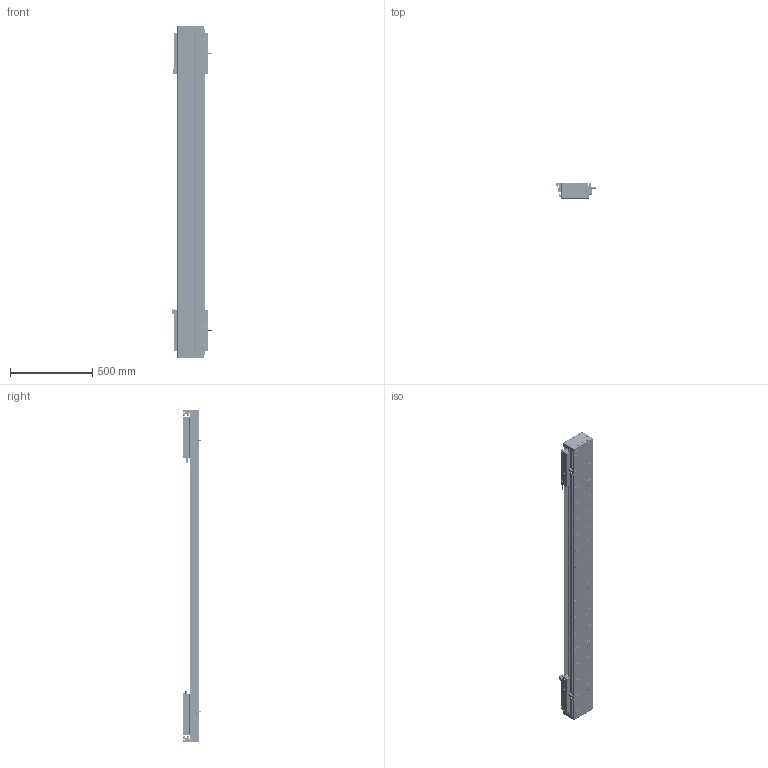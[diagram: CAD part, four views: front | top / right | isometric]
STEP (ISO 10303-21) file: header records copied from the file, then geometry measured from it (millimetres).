
FILE_DESCRIPTION (( 'STEP AP203' ), '1' );
FILE_NAME ('DA-C165-2-C3-T1400-C010-0.2 直线电机.STEP', '2023-06-13T09:24:21', ( '微软用户' ), ( '微软中国' ), 'SwSTEP 2.0', 'SolidWorks 2019', '' );
FILE_SCHEMA (( 'CONFIG_CONTROL_DESIGN' ));
Length unit declared in the file: millimetre
Products named in the file (22): 葩璃 PM-Y45^DA-C165-C3-T-C010-0.2-N 眻盄萇儂; 复件 DA165-GDLK-00 钢带拉块^复件 CU165钢带组件_DA-C165-C3-T-C010-0.2-N 直线电机; 复件 DA165-GD-DG-H-00 端盖^复件 CU165钢带组件_DA-C165-C3-T-C010-0.2-N 直线电机; 复件 DA165-GD-1860-002-00 钢带盖板^复件 CU165钢带组件_DA-C165-C3-T-C010-0.2-N 直线电机; 葩璃 CKM03-W075-C1C2-TP-3.0^DA-C165-C3-T-C010-0.2-N 眻盄萇儂; 复件 CU165 底座^IU-CU165-L 底座导轨_L1980; 复件 66338-1000-006-00 光电感应块^DA-C165-C3-T-C010-0.2-N 直线电机; 复件 DA95-HXJ-00 缓冲橡胶^DA-C165-C3-T-C010-0.2-N 直线电机; 复件 DA165-GYP-00 光电感应片^DA-C165-C3-T-C010-0.2-N 直线电机; 复件 DA165-GDYK-00 钢带压块^复件 CU165钢带组件_DA-C165-C3-T-C010-0.2-N 直线电机; 复件 六角薄螺母 M3^DA-C165-C3-T-C010-0.2-N 直线电机_GB_FASTENER_NUT_STNAB M3-C; DA-C165-2-C3-T1400-C010-0.2 眻盄萇儂; 葩璃 PM-T45^DA-C165-C3-T-C010-0.2-N 眻盄萇儂; 复件 CU165钢带组件^DA-C165-C3-T-C010-0.2-N 直线电机; 珨极趙賑雄怢啣C3-wf; 复件 DMA-010-0.2 读数头^DA-C165-C3-T-C010-0.2-N 直线电机; 复件 DA126-GYP-ZJ-00 中间光电感应片^DA-C165-C3-T-C010-0.2-N 直线电机; 复件 XD-U-02L 磁栅尺^DA-C165-C3-T-C010-0.2-N 直线电机_T; 葩璃 DA95-GT-T-00^IU-CU165-L 菁釱絳寢_T; 葩璃 CKM01-W075-TRL^DA-C165-C3-T-C010-0.2-N 眻盄萇儂; IU-CU165-L 菁釱絳寢; 复件 DKW-HXJ-JY-00 缓冲橡胶^DA-C165-C3-T-C010-0.2-N 直线电机
Assembly tree (45 placements, depth 3):
  DA-C165-2-C3-T1400-C010-0.2 眻盄萇儂
    IU-CU165-L 菁釱絳寢
      复件 CU165 底座^IU-CU165-L 底座导轨_L1980
      葩璃 DA95-GT-T-00^IU-CU165-L 菁釱絳寢_T  x4
    复件 XD-U-02L 磁栅尺^DA-C165-C3-T-C010-0.2-N 直线电机_T
    葩璃 PM-T45^DA-C165-C3-T-C010-0.2-N 眻盄萇儂  x4
    葩璃 CKM01-W075-TRL^DA-C165-C3-T-C010-0.2-N 眻盄萇儂
    复件 CU165钢带组件^DA-C165-C3-T-C010-0.2-N 直线电机
      复件 DA165-GD-DG-H-00 端盖^复件 CU165钢带组件_DA-C165-C3-T-C010-0.2-N 直线电机  x2
      复件 DA165-GDYK-00 钢带压块^复件 CU165钢带组件_DA-C165-C3-T-C010-0.2-N 直线电机  x2
      复件 DA165-GD-1860-002-00 钢带盖板^复件 CU165钢带组件_DA-C165-C3-T-C010-0.2-N 直线电机
      复件 DA165-GDLK-00 钢带拉块^复件 CU165钢带组件_DA-C165-C3-T-C010-0.2-N 直线电机  x2
    复件 DA95-HXJ-00 缓冲橡胶^DA-C165-C3-T-C010-0.2-N 直线电机  x4
    复件 DMA-010-0.2 读数头^DA-C165-C3-T-C010-0.2-N 直线电机  x2
    复件 DA165-GYP-00 光电感应片^DA-C165-C3-T-C010-0.2-N 直线电机  x2
    复件 66338-1000-006-00 光电感应块^DA-C165-C3-T-C010-0.2-N 直线电机
    葩璃 PM-Y45^DA-C165-C3-T-C010-0.2-N 眻盄萇儂
    复件 DA126-GYP-ZJ-00 中间光电感应片^DA-C165-C3-T-C010-0.2-N 直线电机
    葩璃 CKM03-W075-C1C2-TP-3.0^DA-C165-C3-T-C010-0.2-N 眻盄萇儂  x2
    复件 DKW-HXJ-JY-00 缓冲橡胶^DA-C165-C3-T-C010-0.2-N 直线电机  x2
    复件 六角薄螺母 M3^DA-C165-C3-T-C010-0.2-N 直线电机_GB_FASTENER_NUT_STNAB M3-C  x8
    珨极趙賑雄怢啣C3-wf  x2
Bounding box: 247.2 x 111.45 x 2020 mm (x, y, z)
Volume: 14367528 mm3; surface area: 3932078.4 mm2
Topology: 121 solids, 221 shells, 6265 faces, 16792 edges, 10392 vertices
Faces by surface type: cylinder 3198, plane 1999, cone 980, torus 80, sphere 8
Entity records: 133496 total; most frequent: CARTESIAN_POINT 34193, ORIENTED_EDGE 20168, DIRECTION 20144, EDGE_CURVE 10084, AXIS2_PLACEMENT_3D 7657, VERTEX_POINT 6546, VECTOR 4830, LINE 4830
